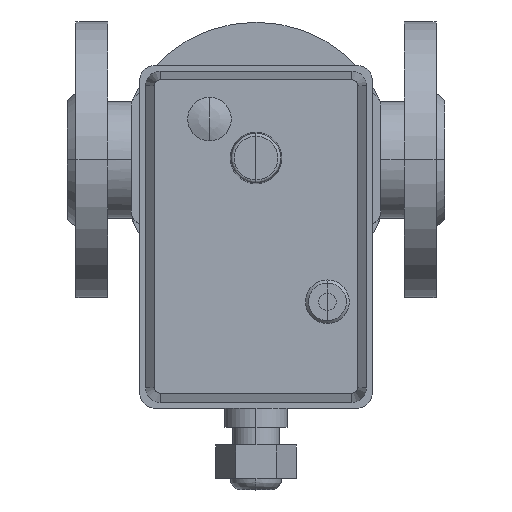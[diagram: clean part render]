
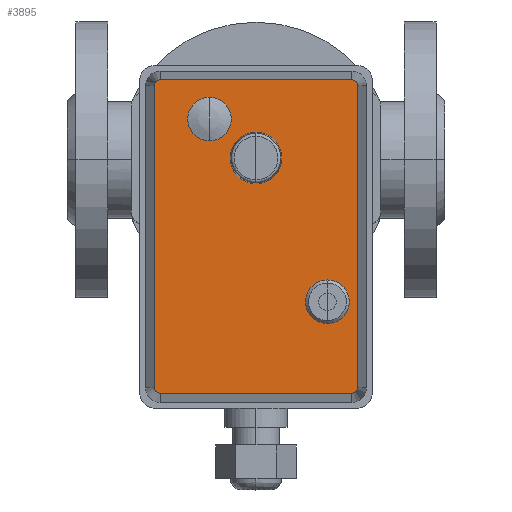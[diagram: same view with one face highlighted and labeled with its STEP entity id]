
A CAD part, top view. The second image highlights one B-rep face of the part: STEP entity #3895.
In plain terms, the highlighted planar face has unit normal (0, 0, 1).
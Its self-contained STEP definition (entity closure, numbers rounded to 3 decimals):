
#378=LINE('',#7121,#615);
#379=LINE('',#7125,#616);
#380=LINE('',#7129,#617);
#381=LINE('',#7132,#618);
#615=VECTOR('',#5486,304.8);
#616=VECTOR('',#5489,304.8);
#617=VECTOR('',#5492,304.8);
#618=VECTOR('',#5495,304.8);
#974=FACE_OUTER_BOUND('',#1242,.T.);
#1242=EDGE_LOOP('',(#3166,#3167,#3168,#3169,#3170,#3171,#3172,#3173));
#1495=CIRCLE('',#4368,2.);
#1496=CIRCLE('',#4369,2.);
#1497=CIRCLE('',#4370,2.);
#1498=CIRCLE('',#4371,2.);
#1793=VERTEX_POINT('',#7117);
#1794=VERTEX_POINT('',#7118);
#1795=VERTEX_POINT('',#7120);
#1796=VERTEX_POINT('',#7122);
#1797=VERTEX_POINT('',#7124);
#1798=VERTEX_POINT('',#7126);
#1799=VERTEX_POINT('',#7128);
#1800=VERTEX_POINT('',#7130);
#2260=EDGE_CURVE('',#1793,#1794,#1495,.T.);
#2261=EDGE_CURVE('',#1794,#1795,#378,.T.);
#2262=EDGE_CURVE('',#1795,#1796,#1496,.T.);
#2263=EDGE_CURVE('',#1796,#1797,#379,.T.);
#2264=EDGE_CURVE('',#1797,#1798,#1497,.T.);
#2265=EDGE_CURVE('',#1798,#1799,#380,.T.);
#2266=EDGE_CURVE('',#1799,#1800,#1498,.T.);
#2267=EDGE_CURVE('',#1800,#1793,#381,.T.);
#3166=ORIENTED_EDGE('',*,*,#2260,.T.);
#3167=ORIENTED_EDGE('',*,*,#2261,.T.);
#3168=ORIENTED_EDGE('',*,*,#2262,.T.);
#3169=ORIENTED_EDGE('',*,*,#2263,.T.);
#3170=ORIENTED_EDGE('',*,*,#2264,.T.);
#3171=ORIENTED_EDGE('',*,*,#2265,.T.);
#3172=ORIENTED_EDGE('',*,*,#2266,.T.);
#3173=ORIENTED_EDGE('',*,*,#2267,.T.);
#3427=PLANE('',#4367);
#3895=ADVANCED_FACE('',(#974),#3427,.T.);
#4367=AXIS2_PLACEMENT_3D('',#7116,#5482,#5483);
#4368=AXIS2_PLACEMENT_3D('',#7119,#5484,#5485);
#4369=AXIS2_PLACEMENT_3D('',#7123,#5487,#5488);
#4370=AXIS2_PLACEMENT_3D('',#7127,#5490,#5491);
#4371=AXIS2_PLACEMENT_3D('',#7131,#5493,#5494);
#5482=DIRECTION('center_axis',(0.,0.,1.));
#5483=DIRECTION('ref_axis',(0.,1.,0.));
#5484=DIRECTION('center_axis',(0.,0.,1.));
#5485=DIRECTION('ref_axis',(0.,-1.,0.));
#5486=DIRECTION('',(1.,0.,0.));
#5487=DIRECTION('center_axis',(0.,0.,
1.));
#5488=DIRECTION('ref_axis',(1.,0.,0.));
#5489=DIRECTION('',(0.,1.,0.));
#5490=DIRECTION('center_axis',(0.,0.,
1.));
#5491=DIRECTION('ref_axis',(0.,1.,0.));
#5492=DIRECTION('',(-1.,0.,0.));
#5493=DIRECTION('center_axis',(0.,0.,
1.));
#5494=DIRECTION('ref_axis',(-1.,0.,0.));
#5495=DIRECTION('',(0.,-1.,0.));
#7116=CARTESIAN_POINT('Origin',(-26.996,0.,
287.926));
#7117=CARTESIAN_POINT('',(-80.987,-33.,287.926));
#7118=CARTESIAN_POINT('',(-78.987,-35.,287.926));
#7119=CARTESIAN_POINT('Origin',(-78.987,-33.,287.926));
#7120=CARTESIAN_POINT('',(24.995,-35.,287.926));
#7121=CARTESIAN_POINT('',(24.995,-35.,287.926));
#7122=CARTESIAN_POINT('',(26.995,-33.,287.926));
#7123=CARTESIAN_POINT('Origin',(24.995,-33.,287.926));
#7124=CARTESIAN_POINT('',(26.995,33.,287.926));
#7125=CARTESIAN_POINT('',(26.995,33.,287.926));
#7126=CARTESIAN_POINT('',(24.995,35.,287.926));
#7127=CARTESIAN_POINT('Origin',(24.995,33.,287.926));
#7128=CARTESIAN_POINT('',(-78.987,35.,287.926));
#7129=CARTESIAN_POINT('',(-78.987,35.,287.926));
#7130=CARTESIAN_POINT('',(-80.987,33.,287.926));
#7131=CARTESIAN_POINT('Origin',(-78.987,33.,287.926));
#7132=CARTESIAN_POINT('',(-80.987,-33.,287.926));
